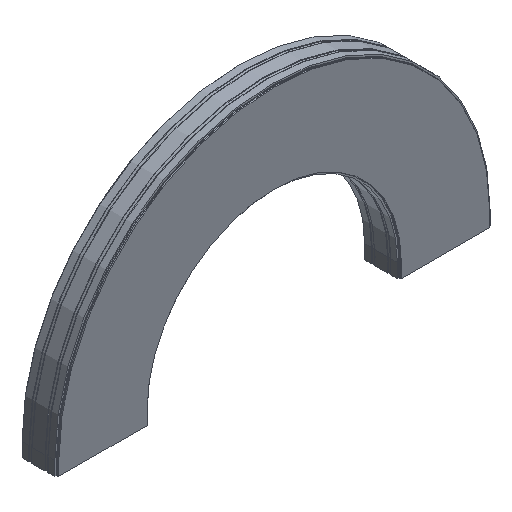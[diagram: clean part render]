
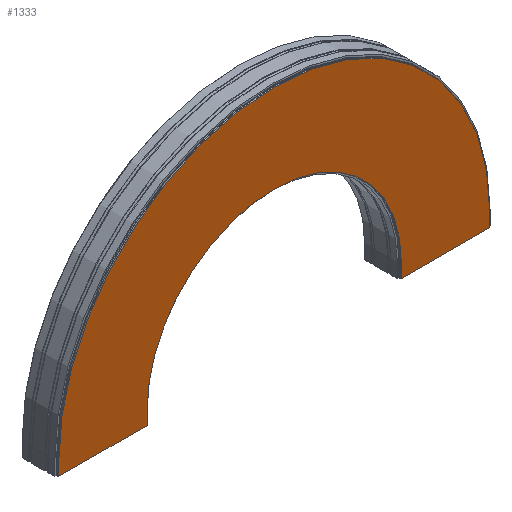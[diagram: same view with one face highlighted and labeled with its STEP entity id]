
A CAD part, isometric view. The second image highlights one B-rep face of the part: STEP entity #1333.
In plain terms, the highlighted planar face has unit normal (0, -1, 0).
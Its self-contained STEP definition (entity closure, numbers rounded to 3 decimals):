
#130 = CARTESIAN_POINT ( 'NONE',  ( -474.9, -68.25, -52.5 ) ) ;
#134 = AXIS2_PLACEMENT_3D ( 'NONE', #2212, #1485, #301 ) ;
#169 = LINE ( 'NONE', #1592, #313 ) ;
#185 = VERTEX_POINT ( 'NONE', #352 ) ;
#194 = DIRECTION ( 'NONE',  ( -1., 0., 0. ) ) ;
#207 = CARTESIAN_POINT ( 'NONE',  ( 474.9, -68.25, 0. ) ) ;
#213 = CARTESIAN_POINT ( 'NONE',  ( 0., -68.25, -52.5 ) ) ;
#246 = DIRECTION ( 'NONE',  ( 0., 0., 1. ) ) ;
#299 = EDGE_CURVE ( 'NONE', #185, #1423, #2214, .T. ) ;
#301 = DIRECTION ( 'NONE',  ( -1., 0., 0. ) ) ;
#313 = VECTOR ( 'NONE', #246, 1000. ) ;
#315 = VECTOR ( 'NONE', #194, 1000. ) ;
#352 = CARTESIAN_POINT ( 'NONE',  ( -474.9, -68.25, -52.5 ) ) ;
#389 = CARTESIAN_POINT ( 'NONE',  ( 805.1, -68.25, -52.5 ) ) ;
#446 = EDGE_CURVE ( 'NONE', #1150, #1635, #169, .T. ) ;
#497 = CARTESIAN_POINT ( 'NONE',  ( 0., -68.25, -52.5 ) ) ;
#505 = CARTESIAN_POINT ( 'NONE',  ( -805.1, -68.25, -52.5 ) ) ;
#619 = VECTOR ( 'NONE', #925, 1000. ) ;
#634 = ORIENTED_EDGE ( 'NONE', *, *, #1438, .T. ) ;
#648 = VECTOR ( 'NONE', #681, 1000. ) ;
#673 = ORIENTED_EDGE ( 'NONE', *, *, #949, .F. ) ;
#681 = DIRECTION ( 'NONE',  ( -1., 0., 0. ) ) ;
#784 = CIRCLE ( 'NONE', #134, 474.9 ) ;
#803 = VERTEX_POINT ( 'NONE', #2003 ) ;
#844 = AXIS2_PLACEMENT_3D ( 'NONE', #1826, #1620, #1429 ) ;
#925 = DIRECTION ( 'NONE',  ( 0., 0., 1. ) ) ;
#940 = VECTOR ( 'NONE', #1063, 1000. ) ;
#949 = EDGE_CURVE ( 'NONE', #803, #1960, #1232, .T. ) ;
#951 = CARTESIAN_POINT ( 'NONE',  ( 474.9, -68.25, -52.5 ) ) ;
#1038 = EDGE_LOOP ( 'NONE', ( #634, #2355, #1390, #1149, #673, #2011, #2035, #1970 ) ) ;
#1048 = EDGE_CURVE ( 'NONE', #1133, #1960, #2349, .T. ) ;
#1063 = DIRECTION ( 'NONE',  ( 0., 0., 1. ) ) ;
#1083 = CARTESIAN_POINT ( 'NONE',  ( -805.1, -68.25, -52.5 ) ) ;
#1133 = VERTEX_POINT ( 'NONE', #389 ) ;
#1149 = ORIENTED_EDGE ( 'NONE', *, *, #1048, .T. ) ;
#1150 = VERTEX_POINT ( 'NONE', #951 ) ;
#1232 = CIRCLE ( 'NONE', #2147, 805.1 ) ;
#1333 = ADVANCED_FACE ( 'NONE', ( #1733 ), #2378, .F. ) ;
#1390 = ORIENTED_EDGE ( 'NONE', *, *, #1466, .F. ) ;
#1423 = VERTEX_POINT ( 'NONE', #505 ) ;
#1429 = DIRECTION ( 'NONE',  ( -1., 0., 0. ) ) ;
#1438 = EDGE_CURVE ( 'NONE', #1880, #1635, #784, .T. ) ;
#1466 = EDGE_CURVE ( 'NONE', #1133, #1150, #1484, .T. ) ;
#1484 = LINE ( 'NONE', #497, #648 ) ;
#1485 = DIRECTION ( 'NONE',  ( 0., 1., 0. ) ) ;
#1592 = CARTESIAN_POINT ( 'NONE',  ( 474.9, -68.25, -52.5 ) ) ;
#1620 = DIRECTION ( 'NONE',  ( 0., 1., 0. ) ) ;
#1635 = VERTEX_POINT ( 'NONE', #207 ) ;
#1711 = CARTESIAN_POINT ( 'NONE',  ( 0., -68.25, 0. ) ) ;
#1733 = FACE_OUTER_BOUND ( 'NONE', #1038, .T. ) ;
#1826 = CARTESIAN_POINT ( 'NONE',  ( -474.9, -68.25, 0. ) ) ;
#1863 = DIRECTION ( 'NONE',  ( -1., 0., 0. ) ) ;
#1880 = VERTEX_POINT ( 'NONE', #2018 ) ;
#1921 = DIRECTION ( 'NONE',  ( 0., 0., 1. ) ) ;
#1960 = VERTEX_POINT ( 'NONE', #2195 ) ;
#1970 = ORIENTED_EDGE ( 'NONE', *, *, #2196, .T. ) ;
#2003 = CARTESIAN_POINT ( 'NONE',  ( -805.1, -68.25, 0. ) ) ;
#2004 = VECTOR ( 'NONE', #1921, 1000. ) ;
#2011 = ORIENTED_EDGE ( 'NONE', *, *, #2028, .F. ) ;
#2018 = CARTESIAN_POINT ( 'NONE',  ( -474.9, -68.25, 0. ) ) ;
#2028 = EDGE_CURVE ( 'NONE', #1423, #803, #2385, .T. ) ;
#2035 = ORIENTED_EDGE ( 'NONE', *, *, #299, .F. ) ;
#2147 = AXIS2_PLACEMENT_3D ( 'NONE', #1711, #2431, #1863 ) ;
#2195 = CARTESIAN_POINT ( 'NONE',  ( 805.1, -68.25, 0. ) ) ;
#2196 = EDGE_CURVE ( 'NONE', #185, #1880, #2249, .T. ) ;
#2212 = CARTESIAN_POINT ( 'NONE',  ( 0., -68.25, 0. ) ) ;
#2214 = LINE ( 'NONE', #213, #315 ) ;
#2249 = LINE ( 'NONE', #130, #619 ) ;
#2281 = CARTESIAN_POINT ( 'NONE',  ( 805.1, -68.25, -52.5 ) ) ;
#2349 = LINE ( 'NONE', #2281, #2004 ) ;
#2355 = ORIENTED_EDGE ( 'NONE', *, *, #446, .F. ) ;
#2378 = PLANE ( 'NONE',  #844 ) ;
#2385 = LINE ( 'NONE', #1083, #940 ) ;
#2431 = DIRECTION ( 'NONE',  ( 0., 1., 0. ) ) ;
